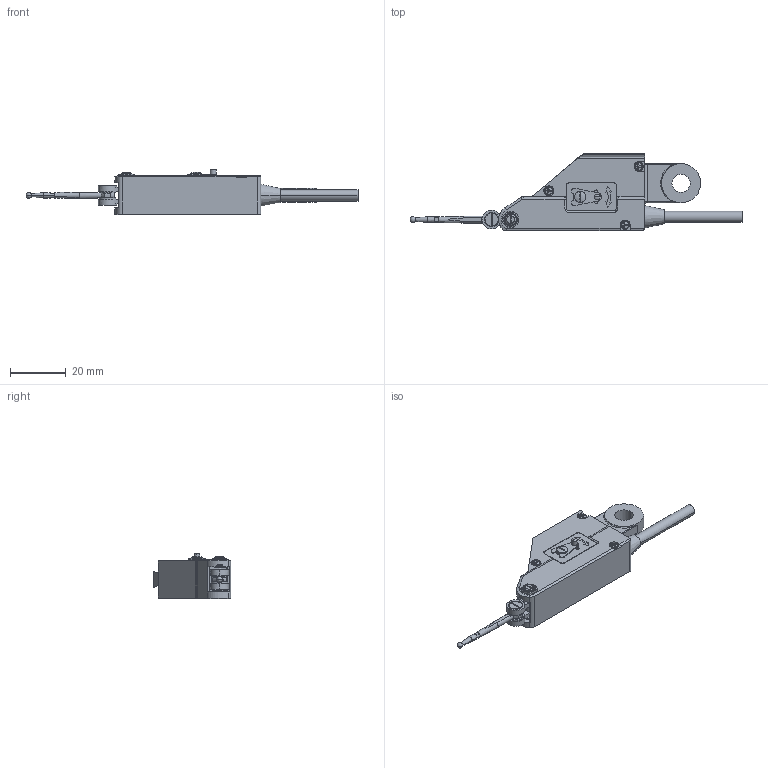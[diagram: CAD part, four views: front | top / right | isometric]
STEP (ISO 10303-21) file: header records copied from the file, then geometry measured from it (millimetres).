
FILE_DESCRIPTION(('Creo Elements/Direct Modeling STEP Export'),'2;1');
FILE_NAME('519-521.stp','2017-08-21T18:41:48',(''),(''),'Creo Elements/Direct Modeling STEP processor for AP214 (Solid Model)','Creo Elements/Direct Modeling 18.1C 24-Feb-2013 (C) Parametric Technology GmbH','');
FILE_SCHEMA(('AUTOMOTIVE_DESIGN { 1 0 10303 214 1 1 1 1 }'));
Length unit declared in the file: millimetre
Products named in the file (2): 519-521
Assembly tree (1 placements, depth 2):
  519-521
    519-521
Bounding box: 118.8 x 27.75 x 16.45 mm (x, y, z)
Volume: 16244.5 mm3; surface area: 6503.5 mm2
Topology: 1 solids, 1 shells, 595 faces, 1576 edges, 1014 vertices
Faces by surface type: plane 262, cylinder 224, cone 71, sphere 12, bspline 11, extrusion 9, torus 6
Entity records: 22451 total; most frequent: CARTESIAN_POINT 7950, ORIENTED_EDGE 3136, DIRECTION 2898, EDGE_CURVE 1566, AXIS2_PLACEMENT_3D 1041, VERTEX_POINT 1014, VECTOR 816, LINE 807
